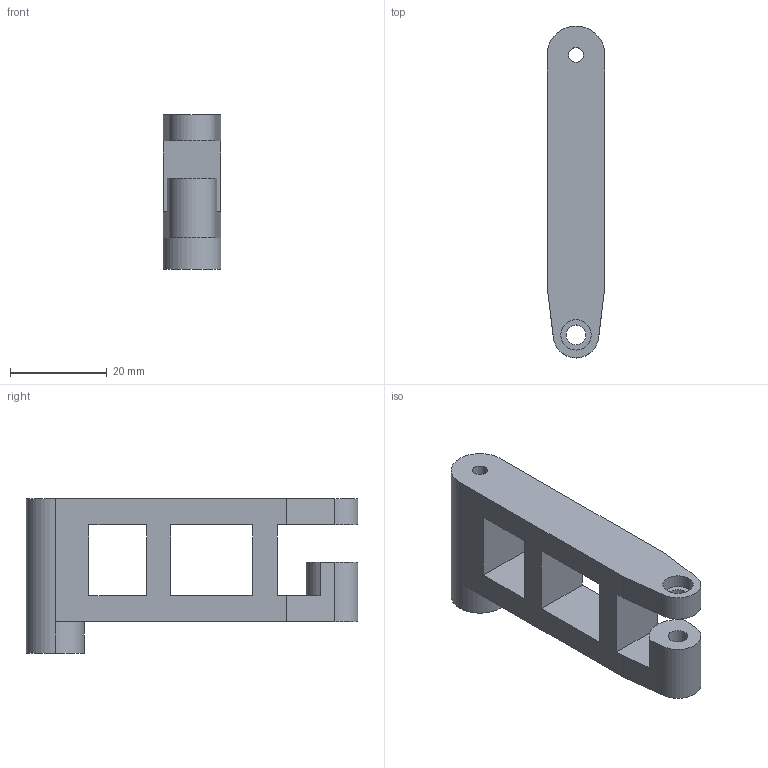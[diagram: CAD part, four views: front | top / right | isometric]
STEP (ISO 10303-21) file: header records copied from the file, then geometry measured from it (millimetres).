
FILE_DESCRIPTION(('Open CASCADE Model'),'2;1');
FILE_NAME('left-outer-link.step','2026-11-14T14:31:59',('Author'),( 'Open CASCADE'),'Open CASCADE STEP processor 8.0','Open CASCADE 8.0' ,'Unknown');
FILE_SCHEMA(('AP242_MANAGED_MODEL_BASED_3D_ENGINEERING_MIM_LF {1 0 10303 442 1 1 4 }' ));
Length unit declared in the file: millimetre
Products named in the file (1): Left Outer Link
Bounding box: 12 x 68.75 x 32 mm (x, y, z)
Volume: 12980.9 mm3; surface area: 6850.4 mm2
Topology: 1 solids, 1 shells, 42 faces, 112 edges, 74 vertices
Faces by surface type: plane 29, cylinder 13
Entity records: 2840 total; most frequent: CARTESIAN_POINT 549, DIRECTION 432, LINE 284, VECTOR 284, ORIENTED_EDGE 224, PCURVE 224, DEFINITIONAL_REPRESENTATION 224, EDGE_CURVE 112
